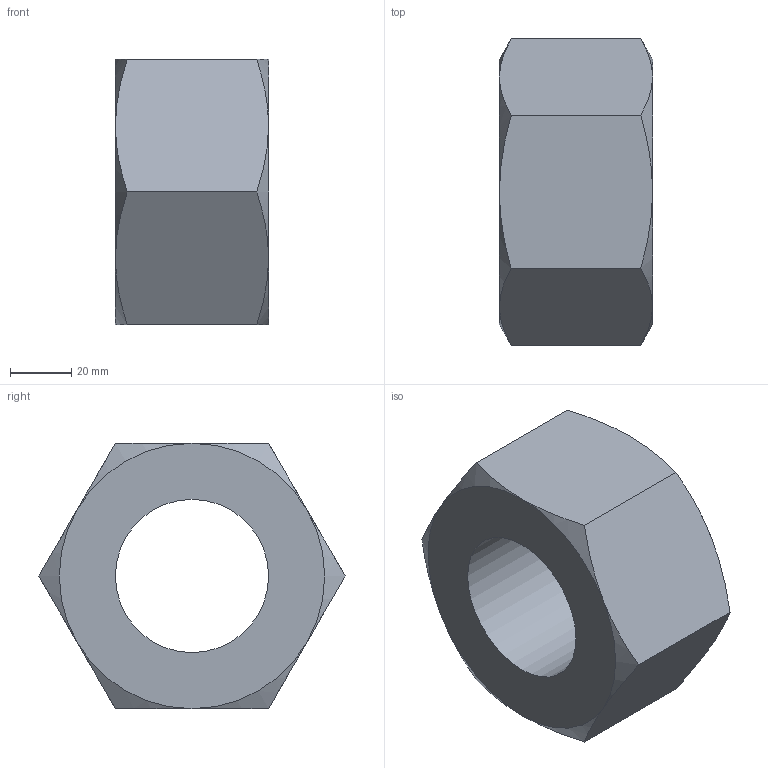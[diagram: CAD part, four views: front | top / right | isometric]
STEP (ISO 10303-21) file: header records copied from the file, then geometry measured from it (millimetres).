
FILE_DESCRIPTION(/* description */ (''),/* implementation_level */ '2;1');
FILE_NAME(/* name */ 'Hex Nut.step',/* time_stamp */ '2026-10-06T11:29:42+05:30',/* author */ (''),/* organization */ (''),/* preprocessor_version */ 'ST-DEVELOPER v20.2',/* originating_system */ 'Autodesk Translation Framework v15.15.0.0',/* authorisation */ '');
FILE_SCHEMA (('AUTOMOTIVE_DESIGN { 1 0 10303 214 3 1 1 }'));
Length unit declared in the file: millimetre
Products named in the file (1): 2026-10-06-11-29-30-664
Bounding box: 50 x 100 x 86.6 mm (x, y, z)
Volume: 225174.6 mm3; surface area: 31308.5 mm2
Topology: 1 solids, 1 shells, 21 faces, 45 edges, 26 vertices
Faces by surface type: cone 12, plane 8, cylinder 1
Full cylindrical faces by diameter (mm): 50 x1
Entity records: 570 total; most frequent: CARTESIAN_POINT 141, ORIENTED_EDGE 90, DIRECTION 79, EDGE_CURVE 45, AXIS2_PLACEMENT_3D 36, VERTEX_POINT 26, EDGE_LOOP 23, FACE_OUTER_BOUND 21
